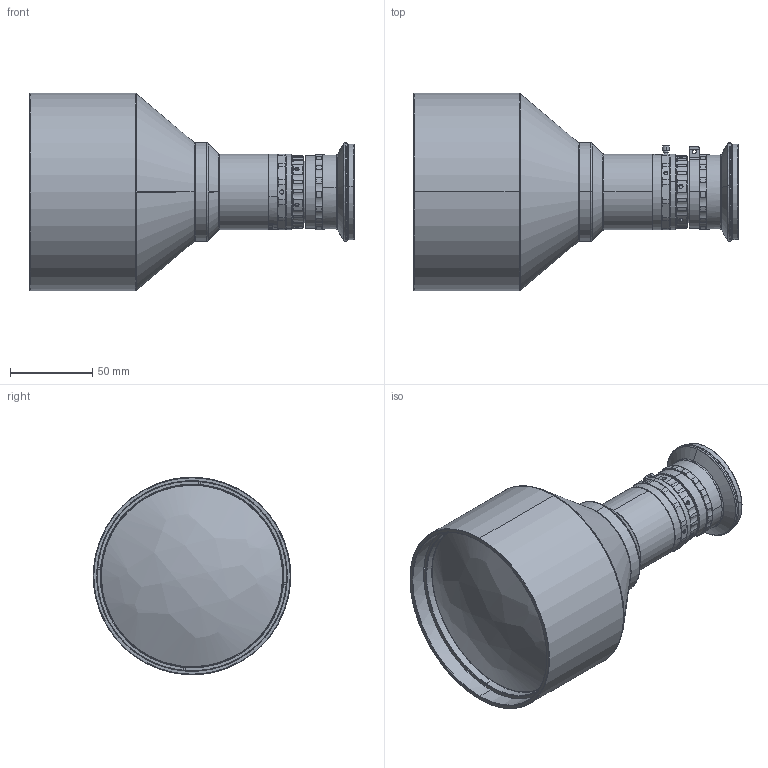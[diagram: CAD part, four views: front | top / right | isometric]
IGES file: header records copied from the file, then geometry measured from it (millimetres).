
Start section: SolidWorks IGES file using analytic representation for surfaces
Global section: file name: F:\BaiduSyncdisk\1-产品  2022-new\DTCA（2021.1.7.整体考过来）\AOI-应用\185\DTCA185-96\非同轴\V1\3D\DTCA185-96-G-M58-AL.IGS,15HSolidWorks; native system: 2017; preprocessor: SolidWorks 2017; author: luo-PC; date: 230504.110925; units: millimetre
Bounding box: 196.99 x 120 x 120 mm (x, y, z)
Surface area: 77369.2 mm2 (no closed solid volume)
Topology: 0 solids, 0 shells, 696 faces, 11405 edges, 11405 vertices
Faces by surface type: revolution 426, bspline 270
